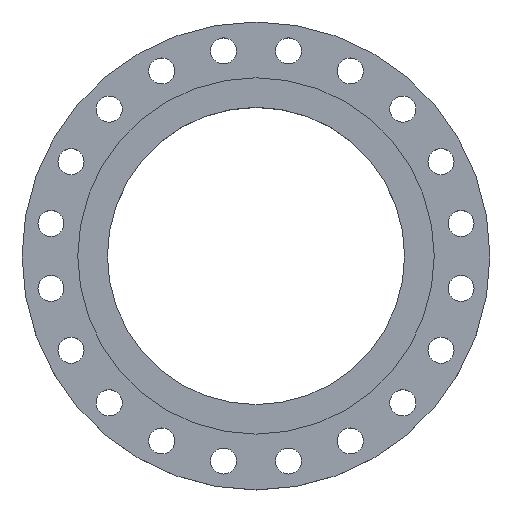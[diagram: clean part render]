
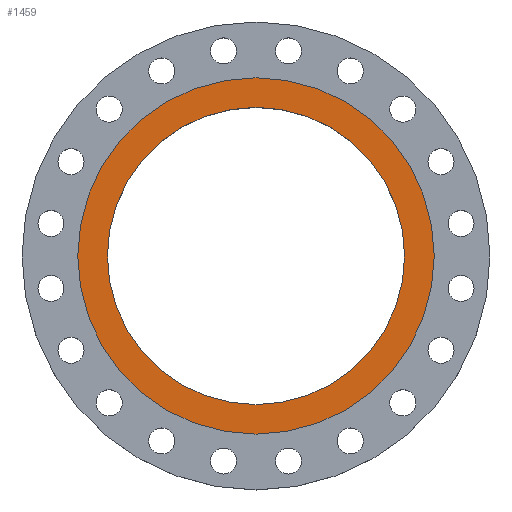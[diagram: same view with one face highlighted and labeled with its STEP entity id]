
A CAD part, top view. The second image highlights one B-rep face of the part: STEP entity #1459.
In plain terms, the highlighted planar face has unit normal (0, 0, 1).
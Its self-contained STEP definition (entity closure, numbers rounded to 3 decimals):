
#137 = VERTEX_POINT ( 'NONE', #494 ) ;
#179 = DIRECTION ( 'NONE',  ( 1., 0., 0. ) ) ;
#191 = DIRECTION ( 'NONE',  ( 0., 0., -1. ) ) ;
#205 = AXIS2_PLACEMENT_3D ( 'NONE', #1008, #1647, #179 ) ;
#224 = CARTESIAN_POINT ( 'NONE',  ( 0., 0., 0. ) ) ;
#305 = VERTEX_POINT ( 'NONE', #915 ) ;
#338 = PLANE ( 'NONE',  #205 ) ;
#340 = CARTESIAN_POINT ( 'NONE',  ( 0., 0., 0. ) ) ;
#465 = ORIENTED_EDGE ( 'NONE', *, *, #1732, .T. ) ;
#494 = CARTESIAN_POINT ( 'NONE',  ( -287.5, 0., 0. ) ) ;
#542 = AXIS2_PLACEMENT_3D ( 'NONE', #751, #1399, #1963 ) ;
#732 = CIRCLE ( 'NONE', #542, 287.5 ) ;
#751 = CARTESIAN_POINT ( 'NONE',  ( 0., 0., 0. ) ) ;
#756 = CIRCLE ( 'NONE', #1007, 239.8 ) ;
#859 = DIRECTION ( 'NONE',  ( -1., 0., 0. ) ) ;
#885 = DIRECTION ( 'NONE',  ( 0., 0., -1. ) ) ;
#915 = CARTESIAN_POINT ( 'NONE',  ( 239.8, 0., 0. ) ) ;
#987 = EDGE_CURVE ( 'NONE', #1486, #305, #1389, .T. ) ;
#1007 = AXIS2_PLACEMENT_3D ( 'NONE', #1657, #191, #859 ) ;
#1008 = CARTESIAN_POINT ( 'NONE',  ( 0., 0., 0. ) ) ;
#1011 = DIRECTION ( 'NONE',  ( 0., 0., -1. ) ) ;
#1041 = CARTESIAN_POINT ( 'NONE',  ( -239.8, 0., 0. ) ) ;
#1079 = EDGE_CURVE ( 'NONE', #137, #1690, #1503, .T. ) ;
#1165 = FACE_BOUND ( 'NONE', #1939, .T. ) ;
#1330 = CARTESIAN_POINT ( 'NONE',  ( 287.5, 0., 0. ) ) ;
#1389 = CIRCLE ( 'NONE', #1391, 239.8 ) ;
#1391 = AXIS2_PLACEMENT_3D ( 'NONE', #340, #1011, #1649 ) ;
#1399 = DIRECTION ( 'NONE',  ( 0., 0., -1. ) ) ;
#1459 = ADVANCED_FACE ( 'NONE', ( #1165, #1780 ), #338, .T. ) ;
#1486 = VERTEX_POINT ( 'NONE', #1041 ) ;
#1503 = CIRCLE ( 'NONE', #1505, 287.5 ) ;
#1505 = AXIS2_PLACEMENT_3D ( 'NONE', #224, #885, #1541 ) ;
#1541 = DIRECTION ( 'NONE',  ( -1., 0., 0. ) ) ;
#1552 = EDGE_LOOP ( 'NONE', ( #2002, #1891 ) ) ;
#1647 = DIRECTION ( 'NONE',  ( 0., 0., 1. ) ) ;
#1649 = DIRECTION ( 'NONE',  ( -1., 0., 0. ) ) ;
#1657 = CARTESIAN_POINT ( 'NONE',  ( 0., 0., 0. ) ) ;
#1690 = VERTEX_POINT ( 'NONE', #1330 ) ;
#1732 = EDGE_CURVE ( 'NONE', #305, #1486, #756, .T. ) ;
#1780 = FACE_OUTER_BOUND ( 'NONE', #1552, .T. ) ;
#1789 = ORIENTED_EDGE ( 'NONE', *, *, #987, .T. ) ;
#1880 = EDGE_CURVE ( 'NONE', #1690, #137, #732, .T. ) ;
#1891 = ORIENTED_EDGE ( 'NONE', *, *, #1880, .F. ) ;
#1939 = EDGE_LOOP ( 'NONE', ( #1789, #465 ) ) ;
#1963 = DIRECTION ( 'NONE',  ( -1., 0., 0. ) ) ;
#2002 = ORIENTED_EDGE ( 'NONE', *, *, #1079, .F. ) ;
